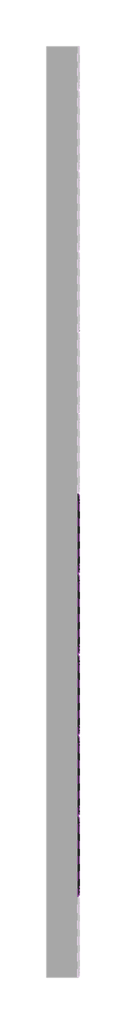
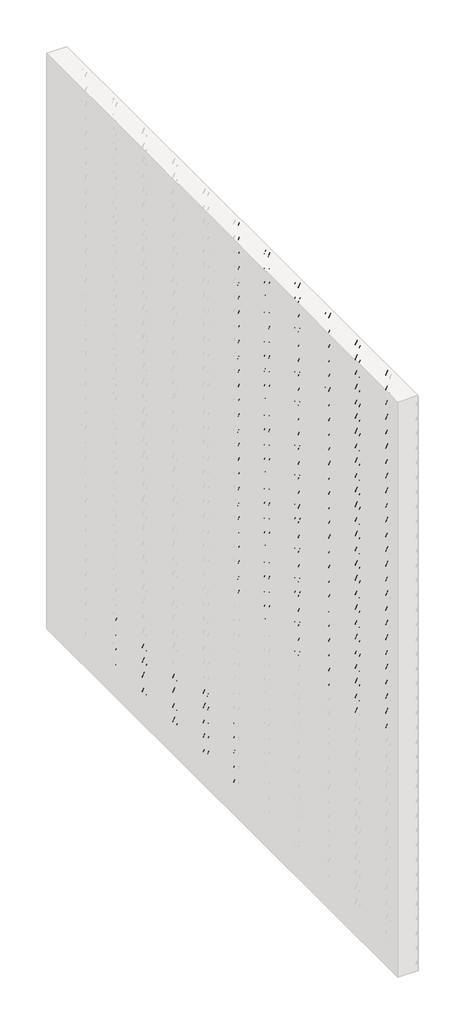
# One storey, part 19 of 45: 147 proxies.
"""IFC4 building model written with IfcOpenShell, lengths in millimetres."""

from ifc_helpers import new_model, si_unit, origin, place, context, project, spatial, transform, mapped, element, save
from components import generic_models_acd2f2bb

model = new_model("IFC4")

# Units and contexts
model_context = context("Model", 3, world=origin())
ifc_project = project(units=[si_unit("LENGTHUNIT", "METRE", prefix="MILLI")], contexts=[model_context])

# Site, building, storey
site = spatial("IfcSite", under=ifc_project)
building = spatial("IfcBuilding", under=site)
storey = spatial("IfcBuildingStorey", under=building, Name="PORTOBELLO - SHOWROOM", Elevation=0.0)

# Proxies
placement = place(None, origin())
generic_models_shape = generic_models_acd2f2bb(model_context)
element("IfcBuildingElementProxy", 1, Name="PBSHOP - HORIZONTES NEW YORK 6,5X23 : NEW YORK DECO", ObjectType="PBSHOP - HORIZONTES NEW YORK 6,5X23 : NEW YORK DECO", at=placement, inside=storey, context=model_context, shape_type="MappedRepresentation", body=[
    mapped(generic_models_shape, transform((66511.8826867, 7202.0036359, 34.5), x_axis=(0.0, 0.0, 1.0), y_axis=(0.0, -1.0, 0.0), z_axis=(1.0, 0.0, 0.0))),
])
element("IfcBuildingElementProxy", 2, Name="PBSHOP - HORIZONTES NEW YORK 6,5X23 : NEW YORK DECO", ObjectType="PBSHOP - HORIZONTES NEW YORK 6,5X23 : NEW YORK DECO", at=placement, inside=storey, context=model_context, shape_type="MappedRepresentation", body=[
    mapped(generic_models_shape, transform((66511.8826867, 7436.0036359, 34.5), x_axis=(0.0, 0.0, 1.0), y_axis=(0.0, -1.0, 0.0), z_axis=(1.0, 0.0, 0.0))),
])
element("IfcBuildingElementProxy", 3, Name="PBSHOP - HORIZONTES NEW YORK 6,5X23 : NEW YORK DECO", ObjectType="PBSHOP - HORIZONTES NEW YORK 6,5X23 : NEW YORK DECO", at=placement, inside=storey, context=model_context, shape_type="MappedRepresentation", body=[
    mapped(generic_models_shape, transform((66511.8826867, 7670.0036359, 34.5), x_axis=(0.0, 0.0, 1.0), y_axis=(0.0, -1.0, 0.0), z_axis=(1.0, 0.0, 0.0))),
])
element("IfcBuildingElementProxy", 4, Name="PBSHOP - HORIZONTES NEW YORK 6,5X23 : NEW YORK DECO", ObjectType="PBSHOP - HORIZONTES NEW YORK 6,5X23 : NEW YORK DECO", at=placement, inside=storey, context=model_context, shape_type="MappedRepresentation", body=[
    mapped(generic_models_shape, transform((66511.8826867, 7904.0036359, 34.5), x_axis=(0.0, 0.0, 1.0), y_axis=(0.0, -1.0, 0.0), z_axis=(1.0, 0.0, 0.0))),
])
element("IfcBuildingElementProxy", 5, Name="PBSHOP - HORIZONTES NEW YORK 6,5X23 : NEW YORK DECO", ObjectType="PBSHOP - HORIZONTES NEW YORK 6,5X23 : NEW YORK DECO", at=placement, inside=storey, context=model_context, shape_type="MappedRepresentation", body=[
    mapped(generic_models_shape, transform((66511.8826867, 7202.0036359, 103.5), x_axis=(0.0, 0.0, 1.0), y_axis=(0.0, -1.0, 0.0), z_axis=(1.0, 0.0, 0.0))),
])
element("IfcBuildingElementProxy", 6, Name="PBSHOP - HORIZONTES NEW YORK 6,5X23 : NEW YORK DECO", ObjectType="PBSHOP - HORIZONTES NEW YORK 6,5X23 : NEW YORK DECO", at=placement, inside=storey, context=model_context, shape_type="MappedRepresentation", body=[
    mapped(generic_models_shape, transform((66511.8826867, 7436.0036359, 103.5), x_axis=(0.0, 0.0, 1.0), y_axis=(0.0, -1.0, 0.0), z_axis=(1.0, 0.0, 0.0))),
])
element("IfcBuildingElementProxy", 7, Name="PBSHOP - HORIZONTES NEW YORK 6,5X23 : NEW YORK DECO", ObjectType="PBSHOP - HORIZONTES NEW YORK 6,5X23 : NEW YORK DECO", at=placement, inside=storey, context=model_context, shape_type="MappedRepresentation", body=[
    mapped(generic_models_shape, transform((66511.8826867, 7670.0036359, 103.5), x_axis=(0.0, 0.0, 1.0), y_axis=(0.0, -1.0, 0.0), z_axis=(1.0, 0.0, 0.0))),
])
element("IfcBuildingElementProxy", 8, Name="PBSHOP - HORIZONTES NEW YORK 6,5X23 : NEW YORK DECO", ObjectType="PBSHOP - HORIZONTES NEW YORK 6,5X23 : NEW YORK DECO", at=placement, inside=storey, context=model_context, shape_type="MappedRepresentation", body=[
    mapped(generic_models_shape, transform((66511.8826867, 7904.0036359, 103.5), x_axis=(0.0, 0.0, 1.0), y_axis=(0.0, -1.0, 0.0), z_axis=(1.0, 0.0, 0.0))),
])
element("IfcBuildingElementProxy", 9, Name="PBSHOP - HORIZONTES NEW YORK 6,5X23 : NEW YORK DECO", ObjectType="PBSHOP - HORIZONTES NEW YORK 6,5X23 : NEW YORK DECO", at=placement, inside=storey, context=model_context, shape_type="MappedRepresentation", body=[
    mapped(generic_models_shape, transform((66511.8826867, 7202.0036359, 172.5), x_axis=(0.0, 0.0, 1.0), y_axis=(0.0, -1.0, 0.0), z_axis=(1.0, 0.0, 0.0))),
])
element("IfcBuildingElementProxy", 10, Name="PBSHOP - HORIZONTES NEW YORK 6,5X23 : NEW YORK DECO", ObjectType="PBSHOP - HORIZONTES NEW YORK 6,5X23 : NEW YORK DECO", at=placement, inside=storey, context=model_context, shape_type="MappedRepresentation", body=[
    mapped(generic_models_shape, transform((66511.8826867, 7436.0036359, 172.5), x_axis=(0.0, 0.0, 1.0), y_axis=(0.0, -1.0, 0.0), z_axis=(1.0, 0.0, 0.0))),
])
element("IfcBuildingElementProxy", 11, Name="PBSHOP - HORIZONTES NEW YORK 6,5X23 : NEW YORK DECO", ObjectType="PBSHOP - HORIZONTES NEW YORK 6,5X23 : NEW YORK DECO", at=placement, inside=storey, context=model_context, shape_type="MappedRepresentation", body=[
    mapped(generic_models_shape, transform((66511.8826867, 7670.0036359, 172.5), x_axis=(0.0, 0.0, 1.0), y_axis=(0.0, -1.0, 0.0), z_axis=(1.0, 0.0, 0.0))),
])
element("IfcBuildingElementProxy", 12, Name="PBSHOP - HORIZONTES NEW YORK 6,5X23 : NEW YORK DECO", ObjectType="PBSHOP - HORIZONTES NEW YORK 6,5X23 : NEW YORK DECO", at=placement, inside=storey, context=model_context, shape_type="MappedRepresentation", body=[
    mapped(generic_models_shape, transform((66511.8826867, 7904.0036359, 172.5), x_axis=(0.0, 0.0, 1.0), y_axis=(0.0, -1.0, 0.0), z_axis=(1.0, 0.0, 0.0))),
])
element("IfcBuildingElementProxy", 13, Name="PBSHOP - HORIZONTES NEW YORK 6,5X23 : NEW YORK DECO", ObjectType="PBSHOP - HORIZONTES NEW YORK 6,5X23 : NEW YORK DECO", at=placement, inside=storey, context=model_context, shape_type="MappedRepresentation", body=[
    mapped(generic_models_shape, transform((66511.8826867, 7202.0036359, 241.5), x_axis=(0.0, 0.0, 1.0), y_axis=(0.0, -1.0, 0.0), z_axis=(1.0, 0.0, 0.0))),
])
element("IfcBuildingElementProxy", 14, Name="PBSHOP - HORIZONTES NEW YORK 6,5X23 : NEW YORK DECO", ObjectType="PBSHOP - HORIZONTES NEW YORK 6,5X23 : NEW YORK DECO", at=placement, inside=storey, context=model_context, shape_type="MappedRepresentation", body=[
    mapped(generic_models_shape, transform((66511.8826867, 7436.0036359, 241.5), x_axis=(0.0, 0.0, 1.0), y_axis=(0.0, -1.0, 0.0), z_axis=(1.0, 0.0, 0.0))),
])
element("IfcBuildingElementProxy", 15, Name="PBSHOP - HORIZONTES NEW YORK 6,5X23 : NEW YORK DECO", ObjectType="PBSHOP - HORIZONTES NEW YORK 6,5X23 : NEW YORK DECO", at=placement, inside=storey, context=model_context, shape_type="MappedRepresentation", body=[
    mapped(generic_models_shape, transform((66511.8826867, 7670.0036359, 241.5), x_axis=(0.0, 0.0, 1.0), y_axis=(0.0, -1.0, 0.0), z_axis=(1.0, 0.0, 0.0))),
])
element("IfcBuildingElementProxy", 16, Name="PBSHOP - HORIZONTES NEW YORK 6,5X23 : NEW YORK DECO", ObjectType="PBSHOP - HORIZONTES NEW YORK 6,5X23 : NEW YORK DECO", at=placement, inside=storey, context=model_context, shape_type="MappedRepresentation", body=[
    mapped(generic_models_shape, transform((66511.8826867, 7904.0036359, 241.5), x_axis=(0.0, 0.0, 1.0), y_axis=(0.0, -1.0, 0.0), z_axis=(1.0, 0.0, 0.0))),
])
element("IfcBuildingElementProxy", 17, Name="PBSHOP - HORIZONTES NEW YORK 6,5X23 : NEW YORK DECO", ObjectType="PBSHOP - HORIZONTES NEW YORK 6,5X23 : NEW YORK DECO", at=placement, inside=storey, context=model_context, shape_type="MappedRepresentation", body=[
    mapped(generic_models_shape, transform((66511.8826867, 7202.0036359, 310.5), x_axis=(0.0, 0.0, 1.0), y_axis=(0.0, -1.0, 0.0), z_axis=(1.0, 0.0, 0.0))),
])
element("IfcBuildingElementProxy", 18, Name="PBSHOP - HORIZONTES NEW YORK 6,5X23 : NEW YORK DECO", ObjectType="PBSHOP - HORIZONTES NEW YORK 6,5X23 : NEW YORK DECO", at=placement, inside=storey, context=model_context, shape_type="MappedRepresentation", body=[
    mapped(generic_models_shape, transform((66511.8826867, 7436.0036359, 310.5), x_axis=(0.0, 0.0, 1.0), y_axis=(0.0, -1.0, 0.0), z_axis=(1.0, 0.0, 0.0))),
])
element("IfcBuildingElementProxy", 19, Name="PBSHOP - HORIZONTES NEW YORK 6,5X23 : NEW YORK DECO", ObjectType="PBSHOP - HORIZONTES NEW YORK 6,5X23 : NEW YORK DECO", at=placement, inside=storey, context=model_context, shape_type="MappedRepresentation", body=[
    mapped(generic_models_shape, transform((66511.8826867, 6266.0036359, 931.5), x_axis=(0.0, 0.0, 1.0), y_axis=(0.0, -1.0, 0.0), z_axis=(1.0, 0.0, 0.0))),
])
element("IfcBuildingElementProxy", 20, Name="PBSHOP - HORIZONTES NEW YORK 6,5X23 : NEW YORK DECO", ObjectType="PBSHOP - HORIZONTES NEW YORK 6,5X23 : NEW YORK DECO", at=placement, inside=storey, context=model_context, shape_type="MappedRepresentation", body=[
    mapped(generic_models_shape, transform((66511.8826867, 6500.0036359, 931.5), x_axis=(0.0, 0.0, 1.0), y_axis=(0.0, -1.0, 0.0), z_axis=(1.0, 0.0, 0.0))),
])
element("IfcBuildingElementProxy", 21, Name="PBSHOP - HORIZONTES NEW YORK 6,5X23 : NEW YORK DECO", ObjectType="PBSHOP - HORIZONTES NEW YORK 6,5X23 : NEW YORK DECO", at=placement, inside=storey, context=model_context, shape_type="MappedRepresentation", body=[
    mapped(generic_models_shape, transform((66511.8826867, 6734.0036359, 931.5), x_axis=(0.0, 0.0, 1.0), y_axis=(0.0, -1.0, 0.0), z_axis=(1.0, 0.0, 0.0))),
])
element("IfcBuildingElementProxy", 22, Name="PBSHOP - HORIZONTES NEW YORK 6,5X23 : NEW YORK DECO", ObjectType="PBSHOP - HORIZONTES NEW YORK 6,5X23 : NEW YORK DECO", at=placement, inside=storey, context=model_context, shape_type="MappedRepresentation", body=[
    mapped(generic_models_shape, transform((66511.8826867, 6968.0036359, 931.5), x_axis=(0.0, 0.0, 1.0), y_axis=(0.0, -1.0, 0.0), z_axis=(1.0, 0.0, 0.0))),
])
element("IfcBuildingElementProxy", 23, Name="PBSHOP - HORIZONTES NEW YORK 6,5X23 : NEW YORK DECO", ObjectType="PBSHOP - HORIZONTES NEW YORK 6,5X23 : NEW YORK DECO", at=placement, inside=storey, context=model_context, shape_type="MappedRepresentation", body=[
    mapped(generic_models_shape, transform((66511.8826867, 6032.0036359, 1000.5), x_axis=(0.0, 0.0, 1.0), y_axis=(0.0, -1.0, 0.0), z_axis=(1.0, 0.0, 0.0))),
])
element("IfcBuildingElementProxy", 24, Name="PBSHOP - HORIZONTES NEW YORK 6,5X23 : NEW YORK DECO", ObjectType="PBSHOP - HORIZONTES NEW YORK 6,5X23 : NEW YORK DECO", at=placement, inside=storey, context=model_context, shape_type="MappedRepresentation", body=[
    mapped(generic_models_shape, transform((66511.8826867, 6266.0036359, 1000.5), x_axis=(0.0, 0.0, 1.0), y_axis=(0.0, -1.0, 0.0), z_axis=(1.0, 0.0, 0.0))),
])
element("IfcBuildingElementProxy", 25, Name="PBSHOP - HORIZONTES NEW YORK 6,5X23 : NEW YORK DECO", ObjectType="PBSHOP - HORIZONTES NEW YORK 6,5X23 : NEW YORK DECO", at=placement, inside=storey, context=model_context, shape_type="MappedRepresentation", body=[
    mapped(generic_models_shape, transform((66511.8826867, 6500.0036359, 1000.5), x_axis=(0.0, 0.0, 1.0), y_axis=(0.0, -1.0, 0.0), z_axis=(1.0, 0.0, 0.0))),
])
element("IfcBuildingElementProxy", 26, Name="PBSHOP - HORIZONTES NEW YORK 6,5X23 : NEW YORK DECO", ObjectType="PBSHOP - HORIZONTES NEW YORK 6,5X23 : NEW YORK DECO", at=placement, inside=storey, context=model_context, shape_type="MappedRepresentation", body=[
    mapped(generic_models_shape, transform((66511.8826867, 6734.0036359, 1000.5), x_axis=(0.0, 0.0, 1.0), y_axis=(0.0, -1.0, 0.0), z_axis=(1.0, 0.0, 0.0))),
])
element("IfcBuildingElementProxy", 27, Name="PBSHOP - HORIZONTES NEW YORK 6,5X23 : NEW YORK DECO", ObjectType="PBSHOP - HORIZONTES NEW YORK 6,5X23 : NEW YORK DECO", at=placement, inside=storey, context=model_context, shape_type="MappedRepresentation", body=[
    mapped(generic_models_shape, transform((66511.8826867, 6968.0036359, 1000.5), x_axis=(0.0, 0.0, 1.0), y_axis=(0.0, -1.0, 0.0), z_axis=(1.0, 0.0, 0.0))),
])
element("IfcBuildingElementProxy", 28, Name="PBSHOP - HORIZONTES NEW YORK 6,5X23 : NEW YORK DECO", ObjectType="PBSHOP - HORIZONTES NEW YORK 6,5X23 : NEW YORK DECO", at=placement, inside=storey, context=model_context, shape_type="MappedRepresentation", body=[
    mapped(generic_models_shape, transform((66511.8826867, 6032.0036359, 1069.5), x_axis=(0.0, 0.0, 1.0), y_axis=(0.0, -1.0, 0.0), z_axis=(1.0, 0.0, 0.0))),
])
element("IfcBuildingElementProxy", 29, Name="PBSHOP - HORIZONTES NEW YORK 6,5X23 : NEW YORK DECO", ObjectType="PBSHOP - HORIZONTES NEW YORK 6,5X23 : NEW YORK DECO", at=placement, inside=storey, context=model_context, shape_type="MappedRepresentation", body=[
    mapped(generic_models_shape, transform((66511.8826867, 6266.0036359, 1069.5), x_axis=(0.0, 0.0, 1.0), y_axis=(0.0, -1.0, 0.0), z_axis=(1.0, 0.0, 0.0))),
])
element("IfcBuildingElementProxy", 30, Name="PBSHOP - HORIZONTES NEW YORK 6,5X23 : NEW YORK DECO", ObjectType="PBSHOP - HORIZONTES NEW YORK 6,5X23 : NEW YORK DECO", at=placement, inside=storey, context=model_context, shape_type="MappedRepresentation", body=[
    mapped(generic_models_shape, transform((66511.8826867, 6500.0036359, 1069.5), x_axis=(0.0, 0.0, 1.0), y_axis=(0.0, -1.0, 0.0), z_axis=(1.0, 0.0, 0.0))),
])
element("IfcBuildingElementProxy", 31, Name="PBSHOP - HORIZONTES NEW YORK 6,5X23 : NEW YORK DECO", ObjectType="PBSHOP - HORIZONTES NEW YORK 6,5X23 : NEW YORK DECO", at=placement, inside=storey, context=model_context, shape_type="MappedRepresentation", body=[
    mapped(generic_models_shape, transform((66511.8826867, 6734.0036359, 1069.5), x_axis=(0.0, 0.0, 1.0), y_axis=(0.0, -1.0, 0.0), z_axis=(1.0, 0.0, 0.0))),
])
element("IfcBuildingElementProxy", 32, Name="PBSHOP - HORIZONTES NEW YORK 6,5X23 : NEW YORK DECO", ObjectType="PBSHOP - HORIZONTES NEW YORK 6,5X23 : NEW YORK DECO", at=placement, inside=storey, context=model_context, shape_type="MappedRepresentation", body=[
    mapped(generic_models_shape, transform((66511.8826867, 6968.0036359, 1069.5), x_axis=(0.0, 0.0, 1.0), y_axis=(0.0, -1.0, 0.0), z_axis=(1.0, 0.0, 0.0))),
])
element("IfcBuildingElementProxy", 33, Name="PBSHOP - HORIZONTES NEW YORK 6,5X23 : NEW YORK DECO", ObjectType="PBSHOP - HORIZONTES NEW YORK 6,5X23 : NEW YORK DECO", at=placement, inside=storey, context=model_context, shape_type="MappedRepresentation", body=[
    mapped(generic_models_shape, transform((66511.8826867, 6032.0036359, 1138.5), x_axis=(0.0, 0.0, 1.0), y_axis=(0.0, -1.0, 0.0), z_axis=(1.0, 0.0, 0.0))),
])
element("IfcBuildingElementProxy", 34, Name="PBSHOP - HORIZONTES NEW YORK 6,5X23 : NEW YORK DECO", ObjectType="PBSHOP - HORIZONTES NEW YORK 6,5X23 : NEW YORK DECO", at=placement, inside=storey, context=model_context, shape_type="MappedRepresentation", body=[
    mapped(generic_models_shape, transform((66511.8826867, 6266.0036359, 1138.5), x_axis=(0.0, 0.0, 1.0), y_axis=(0.0, -1.0, 0.0), z_axis=(1.0, 0.0, 0.0))),
])
element("IfcBuildingElementProxy", 35, Name="PBSHOP - HORIZONTES NEW YORK 6,5X23 : NEW YORK DECO", ObjectType="PBSHOP - HORIZONTES NEW YORK 6,5X23 : NEW YORK DECO", at=placement, inside=storey, context=model_context, shape_type="MappedRepresentation", body=[
    mapped(generic_models_shape, transform((66511.8826867, 6500.0036359, 1138.5), x_axis=(0.0, 0.0, 1.0), y_axis=(0.0, -1.0, 0.0), z_axis=(1.0, 0.0, 0.0))),
])
element("IfcBuildingElementProxy", 36, Name="PBSHOP - HORIZONTES NEW YORK 6,5X23 : NEW YORK DECO", ObjectType="PBSHOP - HORIZONTES NEW YORK 6,5X23 : NEW YORK DECO", at=placement, inside=storey, context=model_context, shape_type="MappedRepresentation", body=[
    mapped(generic_models_shape, transform((66511.8826867, 6734.0036359, 1138.5), x_axis=(0.0, 0.0, 1.0), y_axis=(0.0, -1.0, 0.0), z_axis=(1.0, 0.0, 0.0))),
])
element("IfcBuildingElementProxy", 37, Name="PBSHOP - HORIZONTES NEW YORK 6,5X23 : NEW YORK DECO", ObjectType="PBSHOP - HORIZONTES NEW YORK 6,5X23 : NEW YORK DECO", at=placement, inside=storey, context=model_context, shape_type="MappedRepresentation", body=[
    mapped(generic_models_shape, transform((66511.8826867, 6968.0036359, 1138.5), x_axis=(0.0, 0.0, 1.0), y_axis=(0.0, -1.0, 0.0), z_axis=(1.0, 0.0, 0.0))),
])
element("IfcBuildingElementProxy", 38, Name="PBSHOP - HORIZONTES NEW YORK 6,5X23 : NEW YORK DECO", ObjectType="PBSHOP - HORIZONTES NEW YORK 6,5X23 : NEW YORK DECO", at=placement, inside=storey, context=model_context, shape_type="MappedRepresentation", body=[
    mapped(generic_models_shape, transform((66511.8826867, 6032.0036359, 1207.5), x_axis=(0.0, 0.0, 1.0), y_axis=(0.0, -1.0, 0.0), z_axis=(1.0, 0.0, 0.0))),
])
element("IfcBuildingElementProxy", 39, Name="PBSHOP - HORIZONTES NEW YORK 6,5X23 : NEW YORK DECO", ObjectType="PBSHOP - HORIZONTES NEW YORK 6,5X23 : NEW YORK DECO", at=placement, inside=storey, context=model_context, shape_type="MappedRepresentation", body=[
    mapped(generic_models_shape, transform((66511.8826867, 6266.0036359, 1207.5), x_axis=(0.0, 0.0, 1.0), y_axis=(0.0, -1.0, 0.0), z_axis=(1.0, 0.0, 0.0))),
])
element("IfcBuildingElementProxy", 40, Name="PBSHOP - HORIZONTES NEW YORK 6,5X23 : NEW YORK DECO", ObjectType="PBSHOP - HORIZONTES NEW YORK 6,5X23 : NEW YORK DECO", at=placement, inside=storey, context=model_context, shape_type="MappedRepresentation", body=[
    mapped(generic_models_shape, transform((66511.8826867, 6500.0036359, 1207.5), x_axis=(0.0, 0.0, 1.0), y_axis=(0.0, -1.0, 0.0), z_axis=(1.0, 0.0, 0.0))),
])
element("IfcBuildingElementProxy", 41, Name="PBSHOP - HORIZONTES NEW YORK 6,5X23 : NEW YORK DECO", ObjectType="PBSHOP - HORIZONTES NEW YORK 6,5X23 : NEW YORK DECO", at=placement, inside=storey, context=model_context, shape_type="MappedRepresentation", body=[
    mapped(generic_models_shape, transform((66511.8826867, 6734.0036359, 1207.5), x_axis=(0.0, 0.0, 1.0), y_axis=(0.0, -1.0, 0.0), z_axis=(1.0, 0.0, 0.0))),
])
element("IfcBuildingElementProxy", 42, Name="PBSHOP - HORIZONTES NEW YORK 6,5X23 : NEW YORK DECO", ObjectType="PBSHOP - HORIZONTES NEW YORK 6,5X23 : NEW YORK DECO", at=placement, inside=storey, context=model_context, shape_type="MappedRepresentation", body=[
    mapped(generic_models_shape, transform((66511.8826867, 6968.0036359, 1207.5), x_axis=(0.0, 0.0, 1.0), y_axis=(0.0, -1.0, 0.0), z_axis=(1.0, 0.0, 0.0))),
])
element("IfcBuildingElementProxy", 43, Name="PBSHOP - HORIZONTES NEW YORK 6,5X23 : NEW YORK DECO", ObjectType="PBSHOP - HORIZONTES NEW YORK 6,5X23 : NEW YORK DECO", at=placement, inside=storey, context=model_context, shape_type="MappedRepresentation", body=[
    mapped(generic_models_shape, transform((66511.8826867, 6032.0036359, 1276.5), x_axis=(0.0, 0.0, 1.0), y_axis=(0.0, -1.0, 0.0), z_axis=(1.0, 0.0, 0.0))),
])
element("IfcBuildingElementProxy", 44, Name="PBSHOP - HORIZONTES NEW YORK 6,5X23 : NEW YORK DECO", ObjectType="PBSHOP - HORIZONTES NEW YORK 6,5X23 : NEW YORK DECO", at=placement, inside=storey, context=model_context, shape_type="MappedRepresentation", body=[
    mapped(generic_models_shape, transform((66511.8826867, 6266.0036359, 1276.5), x_axis=(0.0, 0.0, 1.0), y_axis=(0.0, -1.0, 0.0), z_axis=(1.0, 0.0, 0.0))),
])
element("IfcBuildingElementProxy", 45, Name="PBSHOP - HORIZONTES NEW YORK 6,5X23 : NEW YORK DECO", ObjectType="PBSHOP - HORIZONTES NEW YORK 6,5X23 : NEW YORK DECO", at=placement, inside=storey, context=model_context, shape_type="MappedRepresentation", body=[
    mapped(generic_models_shape, transform((66511.8826867, 6500.0036359, 1276.5), x_axis=(0.0, 0.0, 1.0), y_axis=(0.0, -1.0, 0.0), z_axis=(1.0, 0.0, 0.0))),
])
element("IfcBuildingElementProxy", 46, Name="PBSHOP - HORIZONTES NEW YORK 6,5X23 : NEW YORK DECO", ObjectType="PBSHOP - HORIZONTES NEW YORK 6,5X23 : NEW YORK DECO", at=placement, inside=storey, context=model_context, shape_type="MappedRepresentation", body=[
    mapped(generic_models_shape, transform((66511.8826867, 6734.0036359, 1276.5), x_axis=(0.0, 0.0, 1.0), y_axis=(0.0, -1.0, 0.0), z_axis=(1.0, 0.0, 0.0))),
])
element("IfcBuildingElementProxy", 47, Name="PBSHOP - HORIZONTES NEW YORK 6,5X23 : NEW YORK DECO", ObjectType="PBSHOP - HORIZONTES NEW YORK 6,5X23 : NEW YORK DECO", at=placement, inside=storey, context=model_context, shape_type="MappedRepresentation", body=[
    mapped(generic_models_shape, transform((66511.8826867, 6968.0036359, 1276.5), x_axis=(0.0, 0.0, 1.0), y_axis=(0.0, -1.0, 0.0), z_axis=(1.0, 0.0, 0.0))),
])
element("IfcBuildingElementProxy", 48, Name="PBSHOP - HORIZONTES NEW YORK 6,5X23 : NEW YORK DECO", ObjectType="PBSHOP - HORIZONTES NEW YORK 6,5X23 : NEW YORK DECO", at=placement, inside=storey, context=model_context, shape_type="MappedRepresentation", body=[
    mapped(generic_models_shape, transform((66511.8826867, 6032.0036359, 1345.5), x_axis=(0.0, 0.0, 1.0), y_axis=(0.0, -1.0, 0.0), z_axis=(1.0, 0.0, 0.0))),
])
element("IfcBuildingElementProxy", 49, Name="PBSHOP - HORIZONTES NEW YORK 6,5X23 : NEW YORK DECO", ObjectType="PBSHOP - HORIZONTES NEW YORK 6,5X23 : NEW YORK DECO", at=placement, inside=storey, context=model_context, shape_type="MappedRepresentation", body=[
    mapped(generic_models_shape, transform((66511.8826867, 6266.0036359, 1345.5), x_axis=(0.0, 0.0, 1.0), y_axis=(0.0, -1.0, 0.0), z_axis=(1.0, 0.0, 0.0))),
])
element("IfcBuildingElementProxy", 50, Name="PBSHOP - HORIZONTES NEW YORK 6,5X23 : NEW YORK DECO", ObjectType="PBSHOP - HORIZONTES NEW YORK 6,5X23 : NEW YORK DECO", at=placement, inside=storey, context=model_context, shape_type="MappedRepresentation", body=[
    mapped(generic_models_shape, transform((66511.8826867, 6500.0036359, 1345.5), x_axis=(0.0, 0.0, 1.0), y_axis=(0.0, -1.0, 0.0), z_axis=(1.0, 0.0, 0.0))),
])
element("IfcBuildingElementProxy", 51, Name="PBSHOP - HORIZONTES NEW YORK 6,5X23 : NEW YORK DECO", ObjectType="PBSHOP - HORIZONTES NEW YORK 6,5X23 : NEW YORK DECO", at=placement, inside=storey, context=model_context, shape_type="MappedRepresentation", body=[
    mapped(generic_models_shape, transform((66511.8826867, 6734.0036359, 1345.5), x_axis=(0.0, 0.0, 1.0), y_axis=(0.0, -1.0, 0.0), z_axis=(1.0, 0.0, 0.0))),
])
element("IfcBuildingElementProxy", 52, Name="PBSHOP - HORIZONTES NEW YORK 6,5X23 : NEW YORK DECO", ObjectType="PBSHOP - HORIZONTES NEW YORK 6,5X23 : NEW YORK DECO", at=placement, inside=storey, context=model_context, shape_type="MappedRepresentation", body=[
    mapped(generic_models_shape, transform((66511.8826867, 6968.0036359, 1345.5), x_axis=(0.0, 0.0, 1.0), y_axis=(0.0, -1.0, 0.0), z_axis=(1.0, 0.0, 0.0))),
])
element("IfcBuildingElementProxy", 53, Name="PBSHOP - HORIZONTES NEW YORK 6,5X23 : NEW YORK DECO", ObjectType="PBSHOP - HORIZONTES NEW YORK 6,5X23 : NEW YORK DECO", at=placement, inside=storey, context=model_context, shape_type="MappedRepresentation", body=[
    mapped(generic_models_shape, transform((66511.8826867, 6032.0036359, 1414.5), x_axis=(0.0, 0.0, 1.0), y_axis=(0.0, -1.0, 0.0), z_axis=(1.0, 0.0, 0.0))),
])
element("IfcBuildingElementProxy", 54, Name="PBSHOP - HORIZONTES NEW YORK 6,5X23 : NEW YORK DECO", ObjectType="PBSHOP - HORIZONTES NEW YORK 6,5X23 : NEW YORK DECO", at=placement, inside=storey, context=model_context, shape_type="MappedRepresentation", body=[
    mapped(generic_models_shape, transform((66511.8826867, 6266.0036359, 1414.5), x_axis=(0.0, 0.0, 1.0), y_axis=(0.0, -1.0, 0.0), z_axis=(1.0, 0.0, 0.0))),
])
element("IfcBuildingElementProxy", 55, Name="PBSHOP - HORIZONTES NEW YORK 6,5X23 : NEW YORK DECO", ObjectType="PBSHOP - HORIZONTES NEW YORK 6,5X23 : NEW YORK DECO", at=placement, inside=storey, context=model_context, shape_type="MappedRepresentation", body=[
    mapped(generic_models_shape, transform((66511.8826867, 6500.0036359, 1414.5), x_axis=(0.0, 0.0, 1.0), y_axis=(0.0, -1.0, 0.0), z_axis=(1.0, 0.0, 0.0))),
])
element("IfcBuildingElementProxy", 56, Name="PBSHOP - HORIZONTES NEW YORK 6,5X23 : NEW YORK DECO", ObjectType="PBSHOP - HORIZONTES NEW YORK 6,5X23 : NEW YORK DECO", at=placement, inside=storey, context=model_context, shape_type="MappedRepresentation", body=[
    mapped(generic_models_shape, transform((66511.8826867, 6734.0036359, 1414.5), x_axis=(0.0, 0.0, 1.0), y_axis=(0.0, -1.0, 0.0), z_axis=(1.0, 0.0, 0.0))),
])
element("IfcBuildingElementProxy", 57, Name="PBSHOP - HORIZONTES NEW YORK 6,5X23 : NEW YORK DECO", ObjectType="PBSHOP - HORIZONTES NEW YORK 6,5X23 : NEW YORK DECO", at=placement, inside=storey, context=model_context, shape_type="MappedRepresentation", body=[
    mapped(generic_models_shape, transform((66511.8826867, 6968.0036359, 1414.5), x_axis=(0.0, 0.0, 1.0), y_axis=(0.0, -1.0, 0.0), z_axis=(1.0, 0.0, 0.0))),
])
element("IfcBuildingElementProxy", 58, Name="PBSHOP - HORIZONTES NEW YORK 6,5X23 : NEW YORK DECO", ObjectType="PBSHOP - HORIZONTES NEW YORK 6,5X23 : NEW YORK DECO", at=placement, inside=storey, context=model_context, shape_type="MappedRepresentation", body=[
    mapped(generic_models_shape, transform((66511.8826867, 6032.0036359, 1483.5), x_axis=(0.0, 0.0, 1.0), y_axis=(0.0, -1.0, 0.0), z_axis=(1.0, 0.0, 0.0))),
])
element("IfcBuildingElementProxy", 59, Name="PBSHOP - HORIZONTES NEW YORK 6,5X23 : NEW YORK DECO", ObjectType="PBSHOP - HORIZONTES NEW YORK 6,5X23 : NEW YORK DECO", at=placement, inside=storey, context=model_context, shape_type="MappedRepresentation", body=[
    mapped(generic_models_shape, transform((66511.8826867, 6266.0036359, 1483.5), x_axis=(0.0, 0.0, 1.0), y_axis=(0.0, -1.0, 0.0), z_axis=(1.0, 0.0, 0.0))),
])
element("IfcBuildingElementProxy", 60, Name="PBSHOP - HORIZONTES NEW YORK 6,5X23 : NEW YORK DECO", ObjectType="PBSHOP - HORIZONTES NEW YORK 6,5X23 : NEW YORK DECO", at=placement, inside=storey, context=model_context, shape_type="MappedRepresentation", body=[
    mapped(generic_models_shape, transform((66511.8826867, 6500.0036359, 1483.5), x_axis=(0.0, 0.0, 1.0), y_axis=(0.0, -1.0, 0.0), z_axis=(1.0, 0.0, 0.0))),
])
element("IfcBuildingElementProxy", 61, Name="PBSHOP - HORIZONTES NEW YORK 6,5X23 : NEW YORK DECO", ObjectType="PBSHOP - HORIZONTES NEW YORK 6,5X23 : NEW YORK DECO", at=placement, inside=storey, context=model_context, shape_type="MappedRepresentation", body=[
    mapped(generic_models_shape, transform((66511.8826867, 6734.0036359, 1483.5), x_axis=(0.0, 0.0, 1.0), y_axis=(0.0, -1.0, 0.0), z_axis=(1.0, 0.0, 0.0))),
])
element("IfcBuildingElementProxy", 62, Name="PBSHOP - HORIZONTES NEW YORK 6,5X23 : NEW YORK DECO", ObjectType="PBSHOP - HORIZONTES NEW YORK 6,5X23 : NEW YORK DECO", at=placement, inside=storey, context=model_context, shape_type="MappedRepresentation", body=[
    mapped(generic_models_shape, transform((66511.8826867, 6968.0036359, 1483.5), x_axis=(0.0, 0.0, 1.0), y_axis=(0.0, -1.0, 0.0), z_axis=(1.0, 0.0, 0.0))),
])
element("IfcBuildingElementProxy", 63, Name="PBSHOP - HORIZONTES NEW YORK 6,5X23 : NEW YORK DECO", ObjectType="PBSHOP - HORIZONTES NEW YORK 6,5X23 : NEW YORK DECO", at=placement, inside=storey, context=model_context, shape_type="MappedRepresentation", body=[
    mapped(generic_models_shape, transform((66511.8826867, 6032.0036359, 1552.5), x_axis=(0.0, 0.0, 1.0), y_axis=(0.0, -1.0, 0.0), z_axis=(1.0, 0.0, 0.0))),
])
element("IfcBuildingElementProxy", 64, Name="PBSHOP - HORIZONTES NEW YORK 6,5X23 : NEW YORK DECO", ObjectType="PBSHOP - HORIZONTES NEW YORK 6,5X23 : NEW YORK DECO", at=placement, inside=storey, context=model_context, shape_type="MappedRepresentation", body=[
    mapped(generic_models_shape, transform((66511.8826867, 6266.0036359, 1552.5), x_axis=(0.0, 0.0, 1.0), y_axis=(0.0, -1.0, 0.0), z_axis=(1.0, 0.0, 0.0))),
])
element("IfcBuildingElementProxy", 65, Name="PBSHOP - HORIZONTES NEW YORK 6,5X23 : NEW YORK DECO", ObjectType="PBSHOP - HORIZONTES NEW YORK 6,5X23 : NEW YORK DECO", at=placement, inside=storey, context=model_context, shape_type="MappedRepresentation", body=[
    mapped(generic_models_shape, transform((66511.8826867, 6500.0036359, 1552.5), x_axis=(0.0, 0.0, 1.0), y_axis=(0.0, -1.0, 0.0), z_axis=(1.0, 0.0, 0.0))),
])
element("IfcBuildingElementProxy", 66, Name="PBSHOP - HORIZONTES NEW YORK 6,5X23 : NEW YORK DECO", ObjectType="PBSHOP - HORIZONTES NEW YORK 6,5X23 : NEW YORK DECO", at=placement, inside=storey, context=model_context, shape_type="MappedRepresentation", body=[
    mapped(generic_models_shape, transform((66511.8826867, 6734.0036359, 1552.5), x_axis=(0.0, 0.0, 1.0), y_axis=(0.0, -1.0, 0.0), z_axis=(1.0, 0.0, 0.0))),
])
element("IfcBuildingElementProxy", 67, Name="PBSHOP - HORIZONTES NEW YORK 6,5X23 : NEW YORK DECO", ObjectType="PBSHOP - HORIZONTES NEW YORK 6,5X23 : NEW YORK DECO", at=placement, inside=storey, context=model_context, shape_type="MappedRepresentation", body=[
    mapped(generic_models_shape, transform((66511.8826867, 6968.0036359, 1552.5), x_axis=(0.0, 0.0, 1.0), y_axis=(0.0, -1.0, 0.0), z_axis=(1.0, 0.0, 0.0))),
])
element("IfcBuildingElementProxy", 68, Name="PBSHOP - HORIZONTES NEW YORK 6,5X23 : NEW YORK DECO", ObjectType="PBSHOP - HORIZONTES NEW YORK 6,5X23 : NEW YORK DECO", at=placement, inside=storey, context=model_context, shape_type="MappedRepresentation", body=[
    mapped(generic_models_shape, transform((66511.8826867, 6032.0036359, 1621.5), x_axis=(0.0, 0.0, 1.0), y_axis=(0.0, -1.0, 0.0), z_axis=(1.0, 0.0, 0.0))),
])
element("IfcBuildingElementProxy", 69, Name="PBSHOP - HORIZONTES NEW YORK 6,5X23 : NEW YORK DECO", ObjectType="PBSHOP - HORIZONTES NEW YORK 6,5X23 : NEW YORK DECO", at=placement, inside=storey, context=model_context, shape_type="MappedRepresentation", body=[
    mapped(generic_models_shape, transform((66511.8826867, 6266.0036359, 1621.5), x_axis=(0.0, 0.0, 1.0), y_axis=(0.0, -1.0, 0.0), z_axis=(1.0, 0.0, 0.0))),
])
element("IfcBuildingElementProxy", 70, Name="PBSHOP - HORIZONTES NEW YORK 6,5X23 : NEW YORK DECO", ObjectType="PBSHOP - HORIZONTES NEW YORK 6,5X23 : NEW YORK DECO", at=placement, inside=storey, context=model_context, shape_type="MappedRepresentation", body=[
    mapped(generic_models_shape, transform((66511.8826867, 6500.0036359, 1621.5), x_axis=(0.0, 0.0, 1.0), y_axis=(0.0, -1.0, 0.0), z_axis=(1.0, 0.0, 0.0))),
])
element("IfcBuildingElementProxy", 71, Name="PBSHOP - HORIZONTES NEW YORK 6,5X23 : NEW YORK DECO", ObjectType="PBSHOP - HORIZONTES NEW YORK 6,5X23 : NEW YORK DECO", at=placement, inside=storey, context=model_context, shape_type="MappedRepresentation", body=[
    mapped(generic_models_shape, transform((66511.8826867, 6734.0036359, 1621.5), x_axis=(0.0, 0.0, 1.0), y_axis=(0.0, -1.0, 0.0), z_axis=(1.0, 0.0, 0.0))),
])
element("IfcBuildingElementProxy", 72, Name="PBSHOP - HORIZONTES NEW YORK 6,5X23 : NEW YORK DECO", ObjectType="PBSHOP - HORIZONTES NEW YORK 6,5X23 : NEW YORK DECO", at=placement, inside=storey, context=model_context, shape_type="MappedRepresentation", body=[
    mapped(generic_models_shape, transform((66511.8826867, 6968.0036359, 1621.5), x_axis=(0.0, 0.0, 1.0), y_axis=(0.0, -1.0, 0.0), z_axis=(1.0, 0.0, 0.0))),
])
element("IfcBuildingElementProxy", 73, Name="PBSHOP - HORIZONTES NEW YORK 6,5X23 : NEW YORK DECO", ObjectType="PBSHOP - HORIZONTES NEW YORK 6,5X23 : NEW YORK DECO", at=placement, inside=storey, context=model_context, shape_type="MappedRepresentation", body=[
    mapped(generic_models_shape, transform((66511.8826867, 6032.0036359, 1690.5), x_axis=(0.0, 0.0, 1.0), y_axis=(0.0, -1.0, 0.0), z_axis=(1.0, 0.0, 0.0))),
])
element("IfcBuildingElementProxy", 74, Name="PBSHOP - HORIZONTES NEW YORK 6,5X23 : NEW YORK DECO", ObjectType="PBSHOP - HORIZONTES NEW YORK 6,5X23 : NEW YORK DECO", at=placement, inside=storey, context=model_context, shape_type="MappedRepresentation", body=[
    mapped(generic_models_shape, transform((66511.8826867, 6266.0036359, 1690.5), x_axis=(0.0, 0.0, 1.0), y_axis=(0.0, -1.0, 0.0), z_axis=(1.0, 0.0, 0.0))),
])
element("IfcBuildingElementProxy", 75, Name="PBSHOP - HORIZONTES NEW YORK 6,5X23 : NEW YORK DECO", ObjectType="PBSHOP - HORIZONTES NEW YORK 6,5X23 : NEW YORK DECO", at=placement, inside=storey, context=model_context, shape_type="MappedRepresentation", body=[
    mapped(generic_models_shape, transform((66511.8826867, 6500.0036359, 1690.5), x_axis=(0.0, 0.0, 1.0), y_axis=(0.0, -1.0, 0.0), z_axis=(1.0, 0.0, 0.0))),
])
element("IfcBuildingElementProxy", 76, Name="PBSHOP - HORIZONTES NEW YORK 6,5X23 : NEW YORK DECO", ObjectType="PBSHOP - HORIZONTES NEW YORK 6,5X23 : NEW YORK DECO", at=placement, inside=storey, context=model_context, shape_type="MappedRepresentation", body=[
    mapped(generic_models_shape, transform((66511.8826867, 6734.0036359, 1690.5), x_axis=(0.0, 0.0, 1.0), y_axis=(0.0, -1.0, 0.0), z_axis=(1.0, 0.0, 0.0))),
])
element("IfcBuildingElementProxy", 77, Name="PBSHOP - HORIZONTES NEW YORK 6,5X23 : NEW YORK DECO", ObjectType="PBSHOP - HORIZONTES NEW YORK 6,5X23 : NEW YORK DECO", at=placement, inside=storey, context=model_context, shape_type="MappedRepresentation", body=[
    mapped(generic_models_shape, transform((66511.8826867, 6968.0036359, 1690.5), x_axis=(0.0, 0.0, 1.0), y_axis=(0.0, -1.0, 0.0), z_axis=(1.0, 0.0, 0.0))),
])
element("IfcBuildingElementProxy", 78, Name="PBSHOP - HORIZONTES NEW YORK 6,5X23 : NEW YORK DECO", ObjectType="PBSHOP - HORIZONTES NEW YORK 6,5X23 : NEW YORK DECO", at=placement, inside=storey, context=model_context, shape_type="MappedRepresentation", body=[
    mapped(generic_models_shape, transform((66511.8826867, 6032.0036359, 1759.5), x_axis=(0.0, 0.0, 1.0), y_axis=(0.0, -1.0, 0.0), z_axis=(1.0, 0.0, 0.0))),
])
element("IfcBuildingElementProxy", 79, Name="PBSHOP - HORIZONTES NEW YORK 6,5X23 : NEW YORK DECO", ObjectType="PBSHOP - HORIZONTES NEW YORK 6,5X23 : NEW YORK DECO", at=placement, inside=storey, context=model_context, shape_type="MappedRepresentation", body=[
    mapped(generic_models_shape, transform((66511.8826867, 6266.0036359, 1759.5), x_axis=(0.0, 0.0, 1.0), y_axis=(0.0, -1.0, 0.0), z_axis=(1.0, 0.0, 0.0))),
])
element("IfcBuildingElementProxy", 80, Name="PBSHOP - HORIZONTES NEW YORK 6,5X23 : NEW YORK DECO", ObjectType="PBSHOP - HORIZONTES NEW YORK 6,5X23 : NEW YORK DECO", at=placement, inside=storey, context=model_context, shape_type="MappedRepresentation", body=[
    mapped(generic_models_shape, transform((66511.8826867, 6500.0036359, 1759.5), x_axis=(0.0, 0.0, 1.0), y_axis=(0.0, -1.0, 0.0), z_axis=(1.0, 0.0, 0.0))),
])
element("IfcBuildingElementProxy", 81, Name="PBSHOP - HORIZONTES NEW YORK 6,5X23 : NEW YORK DECO", ObjectType="PBSHOP - HORIZONTES NEW YORK 6,5X23 : NEW YORK DECO", at=placement, inside=storey, context=model_context, shape_type="MappedRepresentation", body=[
    mapped(generic_models_shape, transform((66511.8826867, 6734.0036359, 1759.5), x_axis=(0.0, 0.0, 1.0), y_axis=(0.0, -1.0, 0.0), z_axis=(1.0, 0.0, 0.0))),
])
element("IfcBuildingElementProxy", 82, Name="PBSHOP - HORIZONTES NEW YORK 6,5X23 : NEW YORK DECO", ObjectType="PBSHOP - HORIZONTES NEW YORK 6,5X23 : NEW YORK DECO", at=placement, inside=storey, context=model_context, shape_type="MappedRepresentation", body=[
    mapped(generic_models_shape, transform((66511.8826867, 6968.0036359, 1759.5), x_axis=(0.0, 0.0, 1.0), y_axis=(0.0, -1.0, 0.0), z_axis=(1.0, 0.0, 0.0))),
])
element("IfcBuildingElementProxy", 83, Name="PBSHOP - HORIZONTES NEW YORK 6,5X23 : NEW YORK DECO", ObjectType="PBSHOP - HORIZONTES NEW YORK 6,5X23 : NEW YORK DECO", at=placement, inside=storey, context=model_context, shape_type="MappedRepresentation", body=[
    mapped(generic_models_shape, transform((66511.8826867, 6032.0036359, 1828.5), x_axis=(0.0, 0.0, 1.0), y_axis=(0.0, -1.0, 0.0), z_axis=(1.0, 0.0, 0.0))),
])
element("IfcBuildingElementProxy", 84, Name="PBSHOP - HORIZONTES NEW YORK 6,5X23 : NEW YORK DECO", ObjectType="PBSHOP - HORIZONTES NEW YORK 6,5X23 : NEW YORK DECO", at=placement, inside=storey, context=model_context, shape_type="MappedRepresentation", body=[
    mapped(generic_models_shape, transform((66511.8826867, 6266.0036359, 1828.5), x_axis=(0.0, 0.0, 1.0), y_axis=(0.0, -1.0, 0.0), z_axis=(1.0, 0.0, 0.0))),
])
element("IfcBuildingElementProxy", 85, Name="PBSHOP - HORIZONTES NEW YORK 6,5X23 : NEW YORK DECO", ObjectType="PBSHOP - HORIZONTES NEW YORK 6,5X23 : NEW YORK DECO", at=placement, inside=storey, context=model_context, shape_type="MappedRepresentation", body=[
    mapped(generic_models_shape, transform((66511.8826867, 6500.0036359, 1828.5), x_axis=(0.0, 0.0, 1.0), y_axis=(0.0, -1.0, 0.0), z_axis=(1.0, 0.0, 0.0))),
])
element("IfcBuildingElementProxy", 86, Name="PBSHOP - HORIZONTES NEW YORK 6,5X23 : NEW YORK DECO", ObjectType="PBSHOP - HORIZONTES NEW YORK 6,5X23 : NEW YORK DECO", at=placement, inside=storey, context=model_context, shape_type="MappedRepresentation", body=[
    mapped(generic_models_shape, transform((66511.8826867, 6734.0036359, 1828.5), x_axis=(0.0, 0.0, 1.0), y_axis=(0.0, -1.0, 0.0), z_axis=(1.0, 0.0, 0.0))),
])
element("IfcBuildingElementProxy", 87, Name="PBSHOP - HORIZONTES NEW YORK 6,5X23 : NEW YORK DECO", ObjectType="PBSHOP - HORIZONTES NEW YORK 6,5X23 : NEW YORK DECO", at=placement, inside=storey, context=model_context, shape_type="MappedRepresentation", body=[
    mapped(generic_models_shape, transform((66511.8826867, 6968.0036359, 1828.5), x_axis=(0.0, 0.0, 1.0), y_axis=(0.0, -1.0, 0.0), z_axis=(1.0, 0.0, 0.0))),
])
element("IfcBuildingElementProxy", 88, Name="PBSHOP - HORIZONTES NEW YORK 6,5X23 : NEW YORK DECO", ObjectType="PBSHOP - HORIZONTES NEW YORK 6,5X23 : NEW YORK DECO", at=placement, inside=storey, context=model_context, shape_type="MappedRepresentation", body=[
    mapped(generic_models_shape, transform((66511.8826867, 6032.0036359, 1897.5), x_axis=(0.0, 0.0, 1.0), y_axis=(0.0, -1.0, 0.0), z_axis=(1.0, 0.0, 0.0))),
])
element("IfcBuildingElementProxy", 89, Name="PBSHOP - HORIZONTES NEW YORK 6,5X23 : NEW YORK DECO", ObjectType="PBSHOP - HORIZONTES NEW YORK 6,5X23 : NEW YORK DECO", at=placement, inside=storey, context=model_context, shape_type="MappedRepresentation", body=[
    mapped(generic_models_shape, transform((66511.8826867, 6266.0036359, 1897.5), x_axis=(0.0, 0.0, 1.0), y_axis=(0.0, -1.0, 0.0), z_axis=(1.0, 0.0, 0.0))),
])
element("IfcBuildingElementProxy", 90, Name="PBSHOP - HORIZONTES NEW YORK 6,5X23 : NEW YORK DECO", ObjectType="PBSHOP - HORIZONTES NEW YORK 6,5X23 : NEW YORK DECO", at=placement, inside=storey, context=model_context, shape_type="MappedRepresentation", body=[
    mapped(generic_models_shape, transform((66511.8826867, 6500.0036359, 1897.5), x_axis=(0.0, 0.0, 1.0), y_axis=(0.0, -1.0, 0.0), z_axis=(1.0, 0.0, 0.0))),
])
element("IfcBuildingElementProxy", 91, Name="PBSHOP - HORIZONTES NEW YORK 6,5X23 : NEW YORK DECO", ObjectType="PBSHOP - HORIZONTES NEW YORK 6,5X23 : NEW YORK DECO", at=placement, inside=storey, context=model_context, shape_type="MappedRepresentation", body=[
    mapped(generic_models_shape, transform((66511.8826867, 6734.0036359, 1897.5), x_axis=(0.0, 0.0, 1.0), y_axis=(0.0, -1.0, 0.0), z_axis=(1.0, 0.0, 0.0))),
])
element("IfcBuildingElementProxy", 92, Name="PBSHOP - HORIZONTES NEW YORK 6,5X23 : NEW YORK DECO", ObjectType="PBSHOP - HORIZONTES NEW YORK 6,5X23 : NEW YORK DECO", at=placement, inside=storey, context=model_context, shape_type="MappedRepresentation", body=[
    mapped(generic_models_shape, transform((66511.8826867, 6968.0036359, 1897.5), x_axis=(0.0, 0.0, 1.0), y_axis=(0.0, -1.0, 0.0), z_axis=(1.0, 0.0, 0.0))),
])
element("IfcBuildingElementProxy", 93, Name="PBSHOP - HORIZONTES NEW YORK 6,5X23 : NEW YORK DECO", ObjectType="PBSHOP - HORIZONTES NEW YORK 6,5X23 : NEW YORK DECO", at=placement, inside=storey, context=model_context, shape_type="MappedRepresentation", body=[
    mapped(generic_models_shape, transform((66511.8826867, 6032.0036359, 1966.5), x_axis=(0.0, 0.0, 1.0), y_axis=(0.0, -1.0, 0.0), z_axis=(1.0, 0.0, 0.0))),
])
element("IfcBuildingElementProxy", 94, Name="PBSHOP - HORIZONTES NEW YORK 6,5X23 : NEW YORK DECO", ObjectType="PBSHOP - HORIZONTES NEW YORK 6,5X23 : NEW YORK DECO", at=placement, inside=storey, context=model_context, shape_type="MappedRepresentation", body=[
    mapped(generic_models_shape, transform((66511.8826867, 6266.0036359, 1966.5), x_axis=(0.0, 0.0, 1.0), y_axis=(0.0, -1.0, 0.0), z_axis=(1.0, 0.0, 0.0))),
])
element("IfcBuildingElementProxy", 95, Name="PBSHOP - HORIZONTES NEW YORK 6,5X23 : NEW YORK DECO", ObjectType="PBSHOP - HORIZONTES NEW YORK 6,5X23 : NEW YORK DECO", at=placement, inside=storey, context=model_context, shape_type="MappedRepresentation", body=[
    mapped(generic_models_shape, transform((66511.8826867, 6500.0036359, 1966.5), x_axis=(0.0, 0.0, 1.0), y_axis=(0.0, -1.0, 0.0), z_axis=(1.0, 0.0, 0.0))),
])
element("IfcBuildingElementProxy", 96, Name="PBSHOP - HORIZONTES NEW YORK 6,5X23 : NEW YORK DECO", ObjectType="PBSHOP - HORIZONTES NEW YORK 6,5X23 : NEW YORK DECO", at=placement, inside=storey, context=model_context, shape_type="MappedRepresentation", body=[
    mapped(generic_models_shape, transform((66511.8826867, 6734.0036359, 1966.5), x_axis=(0.0, 0.0, 1.0), y_axis=(0.0, -1.0, 0.0), z_axis=(1.0, 0.0, 0.0))),
])
element("IfcBuildingElementProxy", 97, Name="PBSHOP - HORIZONTES NEW YORK 6,5X23 : NEW YORK DECO", ObjectType="PBSHOP - HORIZONTES NEW YORK 6,5X23 : NEW YORK DECO", at=placement, inside=storey, context=model_context, shape_type="MappedRepresentation", body=[
    mapped(generic_models_shape, transform((66511.8826867, 6968.0036359, 1966.5), x_axis=(0.0, 0.0, 1.0), y_axis=(0.0, -1.0, 0.0), z_axis=(1.0, 0.0, 0.0))),
])
element("IfcBuildingElementProxy", 98, Name="PBSHOP - HORIZONTES NEW YORK 6,5X23 : NEW YORK DECO", ObjectType="PBSHOP - HORIZONTES NEW YORK 6,5X23 : NEW YORK DECO", at=placement, inside=storey, context=model_context, shape_type="MappedRepresentation", body=[
    mapped(generic_models_shape, transform((66511.8826867, 6032.0036359, 2035.5), x_axis=(0.0, 0.0, 1.0), y_axis=(0.0, -1.0, 0.0), z_axis=(1.0, 0.0, 0.0))),
])
element("IfcBuildingElementProxy", 99, Name="PBSHOP - HORIZONTES NEW YORK 6,5X23 : NEW YORK DECO", ObjectType="PBSHOP - HORIZONTES NEW YORK 6,5X23 : NEW YORK DECO", at=placement, inside=storey, context=model_context, shape_type="MappedRepresentation", body=[
    mapped(generic_models_shape, transform((66511.8826867, 6266.0036359, 2035.5), x_axis=(0.0, 0.0, 1.0), y_axis=(0.0, -1.0, 0.0), z_axis=(1.0, 0.0, 0.0))),
])
element("IfcBuildingElementProxy", 100, Name="PBSHOP - HORIZONTES NEW YORK 6,5X23 : NEW YORK DECO", ObjectType="PBSHOP - HORIZONTES NEW YORK 6,5X23 : NEW YORK DECO", at=placement, inside=storey, context=model_context, shape_type="MappedRepresentation", body=[
    mapped(generic_models_shape, transform((66511.8826867, 6500.0036359, 2035.5), x_axis=(0.0, 0.0, 1.0), y_axis=(0.0, -1.0, 0.0), z_axis=(1.0, 0.0, 0.0))),
])
element("IfcBuildingElementProxy", 101, Name="PBSHOP - HORIZONTES NEW YORK 6,5X23 : NEW YORK DECO", ObjectType="PBSHOP - HORIZONTES NEW YORK 6,5X23 : NEW YORK DECO", at=placement, inside=storey, context=model_context, shape_type="MappedRepresentation", body=[
    mapped(generic_models_shape, transform((66511.8826867, 6734.0036359, 2035.5), x_axis=(0.0, 0.0, 1.0), y_axis=(0.0, -1.0, 0.0), z_axis=(1.0, 0.0, 0.0))),
])
element("IfcBuildingElementProxy", 102, Name="PBSHOP - HORIZONTES NEW YORK 6,5X23 : NEW YORK DECO", ObjectType="PBSHOP - HORIZONTES NEW YORK 6,5X23 : NEW YORK DECO", at=placement, inside=storey, context=model_context, shape_type="MappedRepresentation", body=[
    mapped(generic_models_shape, transform((66511.8826867, 6968.0036359, 2035.5), x_axis=(0.0, 0.0, 1.0), y_axis=(0.0, -1.0, 0.0), z_axis=(1.0, 0.0, 0.0))),
])
element("IfcBuildingElementProxy", 103, Name="PBSHOP - HORIZONTES NEW YORK 6,5X23 : NEW YORK DECO", ObjectType="PBSHOP - HORIZONTES NEW YORK 6,5X23 : NEW YORK DECO", at=placement, inside=storey, context=model_context, shape_type="MappedRepresentation", body=[
    mapped(generic_models_shape, transform((66511.8826867, 6032.0036359, 2104.5), x_axis=(0.0, 0.0, 1.0), y_axis=(0.0, -1.0, 0.0), z_axis=(1.0, 0.0, 0.0))),
])
element("IfcBuildingElementProxy", 104, Name="PBSHOP - HORIZONTES NEW YORK 6,5X23 : NEW YORK DECO", ObjectType="PBSHOP - HORIZONTES NEW YORK 6,5X23 : NEW YORK DECO", at=placement, inside=storey, context=model_context, shape_type="MappedRepresentation", body=[
    mapped(generic_models_shape, transform((66511.8826867, 6266.0036359, 2104.5), x_axis=(0.0, 0.0, 1.0), y_axis=(0.0, -1.0, 0.0), z_axis=(1.0, 0.0, 0.0))),
])
element("IfcBuildingElementProxy", 105, Name="PBSHOP - HORIZONTES NEW YORK 6,5X23 : NEW YORK DECO", ObjectType="PBSHOP - HORIZONTES NEW YORK 6,5X23 : NEW YORK DECO", at=placement, inside=storey, context=model_context, shape_type="MappedRepresentation", body=[
    mapped(generic_models_shape, transform((66511.8826867, 6500.0036359, 2104.5), x_axis=(0.0, 0.0, 1.0), y_axis=(0.0, -1.0, 0.0), z_axis=(1.0, 0.0, 0.0))),
])
element("IfcBuildingElementProxy", 106, Name="PBSHOP - HORIZONTES NEW YORK 6,5X23 : NEW YORK DECO", ObjectType="PBSHOP - HORIZONTES NEW YORK 6,5X23 : NEW YORK DECO", at=placement, inside=storey, context=model_context, shape_type="MappedRepresentation", body=[
    mapped(generic_models_shape, transform((66511.8826867, 6734.0036359, 2104.5), x_axis=(0.0, 0.0, 1.0), y_axis=(0.0, -1.0, 0.0), z_axis=(1.0, 0.0, 0.0))),
])
element("IfcBuildingElementProxy", 107, Name="PBSHOP - HORIZONTES NEW YORK 6,5X23 : NEW YORK DECO", ObjectType="PBSHOP - HORIZONTES NEW YORK 6,5X23 : NEW YORK DECO", at=placement, inside=storey, context=model_context, shape_type="MappedRepresentation", body=[
    mapped(generic_models_shape, transform((66511.8826867, 6968.0036359, 2104.5), x_axis=(0.0, 0.0, 1.0), y_axis=(0.0, -1.0, 0.0), z_axis=(1.0, 0.0, 0.0))),
])
element("IfcBuildingElementProxy", 108, Name="PBSHOP - HORIZONTES NEW YORK 6,5X23 : NEW YORK DECO", ObjectType="PBSHOP - HORIZONTES NEW YORK 6,5X23 : NEW YORK DECO", at=placement, inside=storey, context=model_context, shape_type="MappedRepresentation", body=[
    mapped(generic_models_shape, transform((66511.8826867, 6032.0036359, 2173.5), x_axis=(0.0, 0.0, 1.0), y_axis=(0.0, -1.0, 0.0), z_axis=(1.0, 0.0, 0.0))),
])
element("IfcBuildingElementProxy", 109, Name="PBSHOP - HORIZONTES NEW YORK 6,5X23 : NEW YORK DECO", ObjectType="PBSHOP - HORIZONTES NEW YORK 6,5X23 : NEW YORK DECO", at=placement, inside=storey, context=model_context, shape_type="MappedRepresentation", body=[
    mapped(generic_models_shape, transform((66511.8826867, 6266.0036359, 2173.5), x_axis=(0.0, 0.0, 1.0), y_axis=(0.0, -1.0, 0.0), z_axis=(1.0, 0.0, 0.0))),
])
element("IfcBuildingElementProxy", 110, Name="PBSHOP - HORIZONTES NEW YORK 6,5X23 : NEW YORK DECO", ObjectType="PBSHOP - HORIZONTES NEW YORK 6,5X23 : NEW YORK DECO", at=placement, inside=storey, context=model_context, shape_type="MappedRepresentation", body=[
    mapped(generic_models_shape, transform((66511.8826867, 6500.0036359, 2173.5), x_axis=(0.0, 0.0, 1.0), y_axis=(0.0, -1.0, 0.0), z_axis=(1.0, 0.0, 0.0))),
])
element("IfcBuildingElementProxy", 111, Name="PBSHOP - HORIZONTES NEW YORK 6,5X23 : NEW YORK DECO", ObjectType="PBSHOP - HORIZONTES NEW YORK 6,5X23 : NEW YORK DECO", at=placement, inside=storey, context=model_context, shape_type="MappedRepresentation", body=[
    mapped(generic_models_shape, transform((66511.8826867, 6734.0036359, 2173.5), x_axis=(0.0, 0.0, 1.0), y_axis=(0.0, -1.0, 0.0), z_axis=(1.0, 0.0, 0.0))),
])
element("IfcBuildingElementProxy", 112, Name="PBSHOP - HORIZONTES NEW YORK 6,5X23 : NEW YORK DECO", ObjectType="PBSHOP - HORIZONTES NEW YORK 6,5X23 : NEW YORK DECO", at=placement, inside=storey, context=model_context, shape_type="MappedRepresentation", body=[
    mapped(generic_models_shape, transform((66511.8826867, 6968.0036359, 2173.5), x_axis=(0.0, 0.0, 1.0), y_axis=(0.0, -1.0, 0.0), z_axis=(1.0, 0.0, 0.0))),
])
element("IfcBuildingElementProxy", 113, Name="PBSHOP - HORIZONTES NEW YORK 6,5X23 : NEW YORK DECO", ObjectType="PBSHOP - HORIZONTES NEW YORK 6,5X23 : NEW YORK DECO", at=placement, inside=storey, context=model_context, shape_type="MappedRepresentation", body=[
    mapped(generic_models_shape, transform((66511.8826867, 6032.0036359, 2242.5), x_axis=(0.0, 0.0, 1.0), y_axis=(0.0, -1.0, 0.0), z_axis=(1.0, 0.0, 0.0))),
])
element("IfcBuildingElementProxy", 114, Name="PBSHOP - HORIZONTES NEW YORK 6,5X23 : NEW YORK DECO", ObjectType="PBSHOP - HORIZONTES NEW YORK 6,5X23 : NEW YORK DECO", at=placement, inside=storey, context=model_context, shape_type="MappedRepresentation", body=[
    mapped(generic_models_shape, transform((66511.8826867, 6266.0036359, 2242.5), x_axis=(0.0, 0.0, 1.0), y_axis=(0.0, -1.0, 0.0), z_axis=(1.0, 0.0, 0.0))),
])
element("IfcBuildingElementProxy", 115, Name="PBSHOP - HORIZONTES NEW YORK 6,5X23 : NEW YORK DECO", ObjectType="PBSHOP - HORIZONTES NEW YORK 6,5X23 : NEW YORK DECO", at=placement, inside=storey, context=model_context, shape_type="MappedRepresentation", body=[
    mapped(generic_models_shape, transform((66511.8826867, 6500.0036359, 2242.5), x_axis=(0.0, 0.0, 1.0), y_axis=(0.0, -1.0, 0.0), z_axis=(1.0, 0.0, 0.0))),
])
element("IfcBuildingElementProxy", 116, Name="PBSHOP - HORIZONTES NEW YORK 6,5X23 : NEW YORK DECO", ObjectType="PBSHOP - HORIZONTES NEW YORK 6,5X23 : NEW YORK DECO", at=placement, inside=storey, context=model_context, shape_type="MappedRepresentation", body=[
    mapped(generic_models_shape, transform((66511.8826867, 6734.0036359, 2242.5), x_axis=(0.0, 0.0, 1.0), y_axis=(0.0, -1.0, 0.0), z_axis=(1.0, 0.0, 0.0))),
])
element("IfcBuildingElementProxy", 117, Name="PBSHOP - HORIZONTES NEW YORK 6,5X23 : NEW YORK DECO", ObjectType="PBSHOP - HORIZONTES NEW YORK 6,5X23 : NEW YORK DECO", at=placement, inside=storey, context=model_context, shape_type="MappedRepresentation", body=[
    mapped(generic_models_shape, transform((66511.8826867, 6968.0036359, 2242.5), x_axis=(0.0, 0.0, 1.0), y_axis=(0.0, -1.0, 0.0), z_axis=(1.0, 0.0, 0.0))),
])
element("IfcBuildingElementProxy", 118, Name="PBSHOP - HORIZONTES NEW YORK 6,5X23 : NEW YORK DECO", ObjectType="PBSHOP - HORIZONTES NEW YORK 6,5X23 : NEW YORK DECO", at=placement, inside=storey, context=model_context, shape_type="MappedRepresentation", body=[
    mapped(generic_models_shape, transform((66511.8826867, 6032.0036359, 2311.5), x_axis=(0.0, 0.0, 1.0), y_axis=(0.0, -1.0, 0.0), z_axis=(1.0, 0.0, 0.0))),
])
element("IfcBuildingElementProxy", 119, Name="PBSHOP - HORIZONTES NEW YORK 6,5X23 : NEW YORK DECO", ObjectType="PBSHOP - HORIZONTES NEW YORK 6,5X23 : NEW YORK DECO", at=placement, inside=storey, context=model_context, shape_type="MappedRepresentation", body=[
    mapped(generic_models_shape, transform((66511.8826867, 6266.0036359, 2311.5), x_axis=(0.0, 0.0, 1.0), y_axis=(0.0, -1.0, 0.0), z_axis=(1.0, 0.0, 0.0))),
])
element("IfcBuildingElementProxy", 120, Name="PBSHOP - HORIZONTES NEW YORK 6,5X23 : NEW YORK DECO", ObjectType="PBSHOP - HORIZONTES NEW YORK 6,5X23 : NEW YORK DECO", at=placement, inside=storey, context=model_context, shape_type="MappedRepresentation", body=[
    mapped(generic_models_shape, transform((66511.8826867, 6500.0036359, 2311.5), x_axis=(0.0, 0.0, 1.0), y_axis=(0.0, -1.0, 0.0), z_axis=(1.0, 0.0, 0.0))),
])
element("IfcBuildingElementProxy", 121, Name="PBSHOP - HORIZONTES NEW YORK 6,5X23 : NEW YORK DECO", ObjectType="PBSHOP - HORIZONTES NEW YORK 6,5X23 : NEW YORK DECO", at=placement, inside=storey, context=model_context, shape_type="MappedRepresentation", body=[
    mapped(generic_models_shape, transform((66511.8826867, 6734.0036359, 2311.5), x_axis=(0.0, 0.0, 1.0), y_axis=(0.0, -1.0, 0.0), z_axis=(1.0, 0.0, 0.0))),
])
element("IfcBuildingElementProxy", 122, Name="PBSHOP - HORIZONTES NEW YORK 6,5X23 : NEW YORK DECO", ObjectType="PBSHOP - HORIZONTES NEW YORK 6,5X23 : NEW YORK DECO", at=placement, inside=storey, context=model_context, shape_type="MappedRepresentation", body=[
    mapped(generic_models_shape, transform((66511.8826867, 6968.0036359, 2311.5), x_axis=(0.0, 0.0, 1.0), y_axis=(0.0, -1.0, 0.0), z_axis=(1.0, 0.0, 0.0))),
])
element("IfcBuildingElementProxy", 123, Name="PBSHOP - HORIZONTES NEW YORK 6,5X23 : NEW YORK DECO", ObjectType="PBSHOP - HORIZONTES NEW YORK 6,5X23 : NEW YORK DECO", at=placement, inside=storey, context=model_context, shape_type="MappedRepresentation", body=[
    mapped(generic_models_shape, transform((66511.8826867, 6032.0036359, 2380.5), x_axis=(0.0, 0.0, 1.0), y_axis=(0.0, -1.0, 0.0), z_axis=(1.0, 0.0, 0.0))),
])
element("IfcBuildingElementProxy", 124, Name="PBSHOP - HORIZONTES NEW YORK 6,5X23 : NEW YORK DECO", ObjectType="PBSHOP - HORIZONTES NEW YORK 6,5X23 : NEW YORK DECO", at=placement, inside=storey, context=model_context, shape_type="MappedRepresentation", body=[
    mapped(generic_models_shape, transform((66511.8826867, 6266.0036359, 2380.5), x_axis=(0.0, 0.0, 1.0), y_axis=(0.0, -1.0, 0.0), z_axis=(1.0, 0.0, 0.0))),
])
element("IfcBuildingElementProxy", 125, Name="PBSHOP - HORIZONTES NEW YORK 6,5X23 : NEW YORK DECO", ObjectType="PBSHOP - HORIZONTES NEW YORK 6,5X23 : NEW YORK DECO", at=placement, inside=storey, context=model_context, shape_type="MappedRepresentation", body=[
    mapped(generic_models_shape, transform((66511.8826867, 6500.0036359, 2380.5), x_axis=(0.0, 0.0, 1.0), y_axis=(0.0, -1.0, 0.0), z_axis=(1.0, 0.0, 0.0))),
])
element("IfcBuildingElementProxy", 126, Name="PBSHOP - HORIZONTES NEW YORK 6,5X23 : NEW YORK DECO", ObjectType="PBSHOP - HORIZONTES NEW YORK 6,5X23 : NEW YORK DECO", at=placement, inside=storey, context=model_context, shape_type="MappedRepresentation", body=[
    mapped(generic_models_shape, transform((66511.8826867, 6734.0036359, 2380.5), x_axis=(0.0, 0.0, 1.0), y_axis=(0.0, -1.0, 0.0), z_axis=(1.0, 0.0, 0.0))),
])
element("IfcBuildingElementProxy", 127, Name="PBSHOP - HORIZONTES NEW YORK 6,5X23 : NEW YORK DECO", ObjectType="PBSHOP - HORIZONTES NEW YORK 6,5X23 : NEW YORK DECO", at=placement, inside=storey, context=model_context, shape_type="MappedRepresentation", body=[
    mapped(generic_models_shape, transform((66511.8826867, 6968.0036359, 2380.5), x_axis=(0.0, 0.0, 1.0), y_axis=(0.0, -1.0, 0.0), z_axis=(1.0, 0.0, 0.0))),
])
element("IfcBuildingElementProxy", 128, Name="PBSHOP - HORIZONTES NEW YORK 6,5X23 : NEW YORK DECO", ObjectType="PBSHOP - HORIZONTES NEW YORK 6,5X23 : NEW YORK DECO", at=placement, inside=storey, context=model_context, shape_type="MappedRepresentation", body=[
    mapped(generic_models_shape, transform((66511.8826867, 6032.0036359, 2449.5), x_axis=(0.0, 0.0, 1.0), y_axis=(0.0, -1.0, 0.0), z_axis=(1.0, 0.0, 0.0))),
])
element("IfcBuildingElementProxy", 129, Name="PBSHOP - HORIZONTES NEW YORK 6,5X23 : NEW YORK DECO", ObjectType="PBSHOP - HORIZONTES NEW YORK 6,5X23 : NEW YORK DECO", at=placement, inside=storey, context=model_context, shape_type="MappedRepresentation", body=[
    mapped(generic_models_shape, transform((66511.8826867, 6266.0036359, 2449.5), x_axis=(0.0, 0.0, 1.0), y_axis=(0.0, -1.0, 0.0), z_axis=(1.0, 0.0, 0.0))),
])
element("IfcBuildingElementProxy", 130, Name="PBSHOP - HORIZONTES NEW YORK 6,5X23 : NEW YORK DECO", ObjectType="PBSHOP - HORIZONTES NEW YORK 6,5X23 : NEW YORK DECO", at=placement, inside=storey, context=model_context, shape_type="MappedRepresentation", body=[
    mapped(generic_models_shape, transform((66511.8826867, 6500.0036359, 2449.5), x_axis=(0.0, 0.0, 1.0), y_axis=(0.0, -1.0, 0.0), z_axis=(1.0, 0.0, 0.0))),
])
element("IfcBuildingElementProxy", 131, Name="PBSHOP - HORIZONTES NEW YORK 6,5X23 : NEW YORK DECO", ObjectType="PBSHOP - HORIZONTES NEW YORK 6,5X23 : NEW YORK DECO", at=placement, inside=storey, context=model_context, shape_type="MappedRepresentation", body=[
    mapped(generic_models_shape, transform((66511.8826867, 6734.0036359, 2449.5), x_axis=(0.0, 0.0, 1.0), y_axis=(0.0, -1.0, 0.0), z_axis=(1.0, 0.0, 0.0))),
])
element("IfcBuildingElementProxy", 132, Name="PBSHOP - HORIZONTES NEW YORK 6,5X23 : NEW YORK DECO", ObjectType="PBSHOP - HORIZONTES NEW YORK 6,5X23 : NEW YORK DECO", at=placement, inside=storey, context=model_context, shape_type="MappedRepresentation", body=[
    mapped(generic_models_shape, transform((66511.8826867, 6968.0036359, 2449.5), x_axis=(0.0, 0.0, 1.0), y_axis=(0.0, -1.0, 0.0), z_axis=(1.0, 0.0, 0.0))),
])
element("IfcBuildingElementProxy", 133, Name="PBSHOP - HORIZONTES NEW YORK 6,5X23 : NEW YORK DECO", ObjectType="PBSHOP - HORIZONTES NEW YORK 6,5X23 : NEW YORK DECO", at=placement, inside=storey, context=model_context, shape_type="MappedRepresentation", body=[
    mapped(generic_models_shape, transform((66511.8826867, 6032.0036359, 2518.5), x_axis=(0.0, 0.0, 1.0), y_axis=(0.0, -1.0, 0.0), z_axis=(1.0, 0.0, 0.0))),
])
element("IfcBuildingElementProxy", 134, Name="PBSHOP - HORIZONTES NEW YORK 6,5X23 : NEW YORK DECO", ObjectType="PBSHOP - HORIZONTES NEW YORK 6,5X23 : NEW YORK DECO", at=placement, inside=storey, context=model_context, shape_type="MappedRepresentation", body=[
    mapped(generic_models_shape, transform((66511.8826867, 6266.0036359, 2518.5), x_axis=(0.0, 0.0, 1.0), y_axis=(0.0, -1.0, 0.0), z_axis=(1.0, 0.0, 0.0))),
])
element("IfcBuildingElementProxy", 135, Name="PBSHOP - HORIZONTES NEW YORK 6,5X23 : NEW YORK DECO", ObjectType="PBSHOP - HORIZONTES NEW YORK 6,5X23 : NEW YORK DECO", at=placement, inside=storey, context=model_context, shape_type="MappedRepresentation", body=[
    mapped(generic_models_shape, transform((66511.8826867, 6500.0036359, 2518.5), x_axis=(0.0, 0.0, 1.0), y_axis=(0.0, -1.0, 0.0), z_axis=(1.0, 0.0, 0.0))),
])
element("IfcBuildingElementProxy", 136, Name="PBSHOP - HORIZONTES NEW YORK 6,5X23 : NEW YORK DECO", ObjectType="PBSHOP - HORIZONTES NEW YORK 6,5X23 : NEW YORK DECO", at=placement, inside=storey, context=model_context, shape_type="MappedRepresentation", body=[
    mapped(generic_models_shape, transform((66511.8826867, 6734.0036359, 2518.5), x_axis=(0.0, 0.0, 1.0), y_axis=(0.0, -1.0, 0.0), z_axis=(1.0, 0.0, 0.0))),
])
element("IfcBuildingElementProxy", 137, Name="PBSHOP - HORIZONTES NEW YORK 6,5X23 : NEW YORK DECO", ObjectType="PBSHOP - HORIZONTES NEW YORK 6,5X23 : NEW YORK DECO", at=placement, inside=storey, context=model_context, shape_type="MappedRepresentation", body=[
    mapped(generic_models_shape, transform((66511.8826867, 6968.0036359, 2518.5), x_axis=(0.0, 0.0, 1.0), y_axis=(0.0, -1.0, 0.0), z_axis=(1.0, 0.0, 0.0))),
])
element("IfcBuildingElementProxy", 138, Name="PBSHOP - HORIZONTES NEW YORK 6,5X23 : NEW YORK DECO", ObjectType="PBSHOP - HORIZONTES NEW YORK 6,5X23 : NEW YORK DECO", at=placement, inside=storey, context=model_context, shape_type="MappedRepresentation", body=[
    mapped(generic_models_shape, transform((66511.8826867, 6032.0036359, 2587.5), x_axis=(0.0, 0.0, 1.0), y_axis=(0.0, -1.0, 0.0), z_axis=(1.0, 0.0, 0.0))),
])
element("IfcBuildingElementProxy", 139, Name="PBSHOP - HORIZONTES NEW YORK 6,5X23 : NEW YORK DECO", ObjectType="PBSHOP - HORIZONTES NEW YORK 6,5X23 : NEW YORK DECO", at=placement, inside=storey, context=model_context, shape_type="MappedRepresentation", body=[
    mapped(generic_models_shape, transform((66511.8826867, 6266.0036359, 2587.5), x_axis=(0.0, 0.0, 1.0), y_axis=(0.0, -1.0, 0.0), z_axis=(1.0, 0.0, 0.0))),
])
element("IfcBuildingElementProxy", 140, Name="PBSHOP - HORIZONTES NEW YORK 6,5X23 : NEW YORK DECO", ObjectType="PBSHOP - HORIZONTES NEW YORK 6,5X23 : NEW YORK DECO", at=placement, inside=storey, context=model_context, shape_type="MappedRepresentation", body=[
    mapped(generic_models_shape, transform((66511.8826867, 6500.0036359, 2587.5), x_axis=(0.0, 0.0, 1.0), y_axis=(0.0, -1.0, 0.0), z_axis=(1.0, 0.0, 0.0))),
])
element("IfcBuildingElementProxy", 141, Name="PBSHOP - HORIZONTES NEW YORK 6,5X23 : NEW YORK DECO", ObjectType="PBSHOP - HORIZONTES NEW YORK 6,5X23 : NEW YORK DECO", at=placement, inside=storey, context=model_context, shape_type="MappedRepresentation", body=[
    mapped(generic_models_shape, transform((66511.8826867, 6734.0036359, 2587.5), x_axis=(0.0, 0.0, 1.0), y_axis=(0.0, -1.0, 0.0), z_axis=(1.0, 0.0, 0.0))),
])
element("IfcBuildingElementProxy", 142, Name="PBSHOP - HORIZONTES NEW YORK 6,5X23 : NEW YORK DECO", ObjectType="PBSHOP - HORIZONTES NEW YORK 6,5X23 : NEW YORK DECO", at=placement, inside=storey, context=model_context, shape_type="MappedRepresentation", body=[
    mapped(generic_models_shape, transform((66511.8826867, 6968.0036359, 2587.5), x_axis=(0.0, 0.0, 1.0), y_axis=(0.0, -1.0, 0.0), z_axis=(1.0, 0.0, 0.0))),
])
element("IfcBuildingElementProxy", 143, Name="PBSHOP - HORIZONTES NEW YORK 6,5X23 : NEW YORK DECO", ObjectType="PBSHOP - HORIZONTES NEW YORK 6,5X23 : NEW YORK DECO", at=placement, inside=storey, context=model_context, shape_type="MappedRepresentation", body=[
    mapped(generic_models_shape, transform((66511.8826867, 6032.0036359, 2656.5), x_axis=(0.0, 0.0, 1.0), y_axis=(0.0, -1.0, 0.0), z_axis=(1.0, 0.0, 0.0))),
])
element("IfcBuildingElementProxy", 144, Name="PBSHOP - HORIZONTES NEW YORK 6,5X23 : NEW YORK DECO", ObjectType="PBSHOP - HORIZONTES NEW YORK 6,5X23 : NEW YORK DECO", at=placement, inside=storey, context=model_context, shape_type="MappedRepresentation", body=[
    mapped(generic_models_shape, transform((66511.8826867, 6266.0036359, 2656.5), x_axis=(0.0, 0.0, 1.0), y_axis=(0.0, -1.0, 0.0), z_axis=(1.0, 0.0, 0.0))),
])
element("IfcBuildingElementProxy", 145, Name="PBSHOP - HORIZONTES NEW YORK 6,5X23 : NEW YORK DECO", ObjectType="PBSHOP - HORIZONTES NEW YORK 6,5X23 : NEW YORK DECO", at=placement, inside=storey, context=model_context, shape_type="MappedRepresentation", body=[
    mapped(generic_models_shape, transform((66511.8826867, 6500.0036359, 2656.5), x_axis=(0.0, 0.0, 1.0), y_axis=(0.0, -1.0, 0.0), z_axis=(1.0, 0.0, 0.0))),
])
element("IfcBuildingElementProxy", 146, Name="PBSHOP - HORIZONTES NEW YORK 6,5X23 : NEW YORK DECO", ObjectType="PBSHOP - HORIZONTES NEW YORK 6,5X23 : NEW YORK DECO", at=placement, inside=storey, context=model_context, shape_type="MappedRepresentation", body=[
    mapped(generic_models_shape, transform((66511.8826867, 6734.0036359, 2656.5), x_axis=(0.0, 0.0, 1.0), y_axis=(0.0, -1.0, 0.0), z_axis=(1.0, 0.0, 0.0))),
])
element("IfcBuildingElementProxy", 147, Name="PBSHOP - HORIZONTES NEW YORK 6,5X23 : NEW YORK DECO", ObjectType="PBSHOP - HORIZONTES NEW YORK 6,5X23 : NEW YORK DECO", at=placement, inside=storey, context=model_context, shape_type="MappedRepresentation", body=[
    mapped(generic_models_shape, transform((66511.8826867, 6968.0036359, 2656.5), x_axis=(0.0, 0.0, 1.0), y_axis=(0.0, -1.0, 0.0), z_axis=(1.0, 0.0, 0.0))),
])

save(model, "model.ifc")
